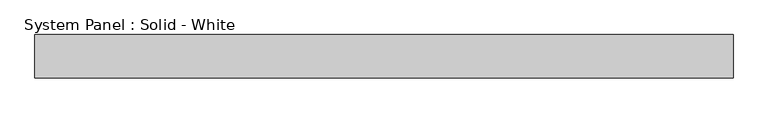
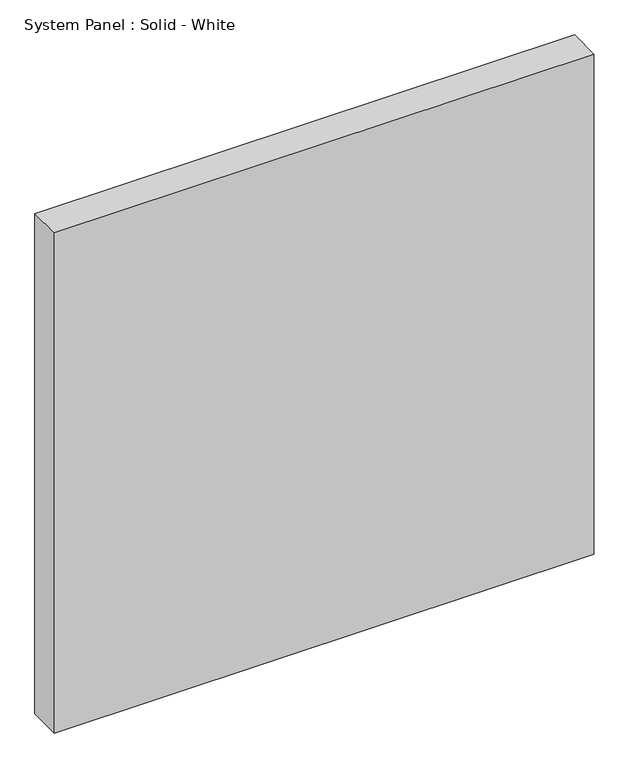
"""IFC4 building model written with IfcOpenShell, lengths in millimetres: plate geometry, System Panel : Solid - White."""

import ifcopenshell
import ifcopenshell.guid

model = None  # the IFC model being written
_history = None  # IfcOwnerHistory: only IFC2X3 demands one
_inside = {}  # id of a spatial element -> (the spatial element, [elements in it])
_under = {}  # id of a project, library or spatial element -> (it, [spatial elements below it])
_declared = {}  # id of a project -> (the project, [libraries it declares])
_typed = {}  # id of a type object -> (the type object, [elements of that type])
_made_of = {}  # id of a material, layer set ... -> (it, [elements and type objects made of it])


def new_model(schema):
    """Start an empty IFC model of exactly this schema.

    Asked for "IFC4X3", IfcOpenShell would pick the latest addendum, in which some entities
    have other attributes; the version numbers below select the first issue.
    IFC2X3 requires an IfcOwnerHistory on every rooted entity: one is made here for all.
    """
    global model, _history
    if schema == "IFC4X3":
        model = ifcopenshell.file(schema_version=(4, 3, 0, 0))
    else:
        model = ifcopenshell.file(schema=schema)
    _inside.clear()
    _under.clear()
    _declared.clear()
    _typed.clear()
    _made_of.clear()
    _history = None
    if model.schema == "IFC2X3":
        org = make("IfcOrganization", Name="unknown")
        user = make(
            "IfcPersonAndOrganization",
            ThePerson=make("IfcPerson", FamilyName="unknown"),
            TheOrganization=org,
        )
        app = make(
            "IfcApplication",
            ApplicationDeveloper=org,
            Version="unknown",
            ApplicationFullName="unknown",
            ApplicationIdentifier="unknown",
        )
        _history = make(
            "IfcOwnerHistory",
            OwningUser=user,
            OwningApplication=app,
            ChangeAction="ADDED",
            CreationDate=0,
        )
    return model


def make(cls, **values):
    """One entity of the class cls with the attributes given. An attribute that is None is left unset."""
    return model.create_entity(
        cls, **{name: value for name, value in values.items() if value is not None}
    )


def rooted(cls, **values):
    """An entity with a GlobalId (a new one), such as an element, a storey or a relation."""
    return make(cls, GlobalId=ifcopenshell.guid.new(), OwnerHistory=_history, **values)


def si_unit(unit_type, name, prefix=None):
    """IfcSIUnit, for example si_unit("LENGTHUNIT", "METRE", prefix="MILLI")."""
    return make("IfcSIUnit", UnitType=unit_type, Prefix=prefix, Name=name)


def assignment(units):
    """IfcUnitAssignment: the units of a project."""
    return None if units is None else make("IfcUnitAssignment", Units=units)


def point(xyz):
    """IfcCartesianPoint."""
    return None if xyz is None else make("IfcCartesianPoint", Coordinates=xyz)


def direction(xyz):
    """IfcDirection."""
    return None if xyz is None else make("IfcDirection", DirectionRatios=xyz)


def frame(location, z_axis=None, x_axis=None):
    """IfcAxis2Placement3D, a coordinate frame: its origin and axes. An axis left out is left unset."""
    return make(
        "IfcAxis2Placement3D",
        Location=point(location),
        Axis=direction(z_axis),
        RefDirection=direction(x_axis),
    )


def origin():
    """The frame at (0, 0, 0) with its axes left unset."""
    return frame((0.0, 0.0, 0.0))


def origin_with_axes():
    """The frame at (0, 0, 0) with the z axis (0, 0, 1) and the x axis (1, 0, 0) written out."""
    return frame((0.0, 0.0, 0.0), z_axis=(0.0, 0.0, 1.0), x_axis=(1.0, 0.0, 0.0))


def place(relative_to, where):
    """IfcLocalPlacement: puts the frame where relative to a parent placement (None: the world)."""
    return make(
        "IfcLocalPlacement", PlacementRelTo=relative_to, RelativePlacement=where
    )


def context(
    kind, dimensions, precision=None, world=None, true_north=None, identifier=None
):
    """IfcGeometricRepresentationContext, for example the 3D "Model" context."""
    return make(
        "IfcGeometricRepresentationContext",
        ContextIdentifier=identifier,
        ContextType=kind,
        CoordinateSpaceDimension=dimensions,
        Precision=precision,
        WorldCoordinateSystem=world,
        TrueNorth=true_north,
    )


def project(units=None, contexts=None):
    """IfcProject with its units and contexts."""
    return rooted(
        "IfcProject",
        Name="project",
        RepresentationContexts=contexts,
        UnitsInContext=assignment(units),
    )


def spatial(cls, under=None, at=None, **own):
    """A site, building, storey or space (cls), placed at a placement, below another one or the project."""
    s = rooted(cls, ObjectPlacement=at, **own)
    if under is not None:
        _under.setdefault(under.id(), (under, []))[1].append(s)
    return s


def polyline(points):
    """IfcPolyline through the points."""
    return make("IfcPolyline", Points=[point(p) for p in points])


def outline(outer, holes=None, kind="AREA"):
    """IfcArbitraryClosedProfileDef: a profile drawn as a closed curve; with holes, ...WithVoids."""
    if holes is None:
        return make("IfcArbitraryClosedProfileDef", ProfileType=kind, OuterCurve=outer)
    return make(
        "IfcArbitraryProfileDefWithVoids",
        ProfileType=kind,
        OuterCurve=outer,
        InnerCurves=holes,
    )


def extrude(swept, where, along, depth):
    """IfcExtrudedAreaSolid: the profile swept, set in the frame where, extruded along a direction by depth."""
    return make(
        "IfcExtrudedAreaSolid",
        SweptArea=swept,
        Position=where,
        ExtrudedDirection=direction(along),
        Depth=depth,
    )


def shape(context_of_items, identifier, shape_type, items):
    """IfcShapeRepresentation: the items that make up one representation, for example the "Body"."""
    return make(
        "IfcShapeRepresentation",
        ContextOfItems=context_of_items,
        RepresentationIdentifier=identifier,
        RepresentationType=shape_type,
        Items=items,
    )


def source(mapping_origin, context_of_items, identifier, shape_type, items):
    """IfcRepresentationMap: a shape defined once, which mapped items show again and again."""
    return make(
        "IfcRepresentationMap",
        MappingOrigin=mapping_origin,
        MappedRepresentation=shape(context_of_items, identifier, shape_type, items),
    )


def transform(
    local_origin,
    x_axis=None,
    y_axis=None,
    z_axis=None,
    scale=None,
    scale2=None,
    scale3=None,
    uniform=True,
):
    """IfcCartesianTransformationOperator3D, or its non-uniform kind. x_axis, y_axis, z_axis: its Axis1, 2, 3."""
    if uniform:
        return make(
            "IfcCartesianTransformationOperator3D",
            Axis1=direction(x_axis),
            Axis2=direction(y_axis),
            LocalOrigin=point(local_origin),
            Scale=scale,
            Axis3=direction(z_axis),
        )
    return make(
        "IfcCartesianTransformationOperator3DnonUniform",
        Axis1=direction(x_axis),
        Axis2=direction(y_axis),
        LocalOrigin=point(local_origin),
        Scale=scale,
        Axis3=direction(z_axis),
        Scale2=scale2,
        Scale3=scale3,
    )


def mapped(mapping_source, mapping_target):
    """IfcMappedItem: shows the shape of a source again, moved by a transform."""
    return make(
        "IfcMappedItem", MappingSource=mapping_source, MappingTarget=mapping_target
    )


def made_of(thing, what):
    """Note that an element or type object is made of a material, layer set ...; save() writes the relation."""
    if what is not None:
        _made_of.setdefault(what.id(), (what, []))[1].append(thing)
    return thing


def element(
    cls,
    number,
    at=None,
    inside=None,
    cuts=None,
    type_object=None,
    material=None,
    context=None,
    identifier="Body",
    shape_type=None,
    held_by="IfcProductDefinitionShape",
    body=None,
    shapes=None,
    **own,
):
    """One element of the class cls, such as IfcWall. Its Tag is "e" and its number.

    at: its placement. inside: the storey or other place that contains it. cuts: it is an
    opening in that element (IfcRelVoidsElement). A single representation is given by context,
    identifier, shape_type and body (its items); several are given by shapes. held_by: the class
    of the entity that holds the representations. save() writes the other relations.
    """
    e = rooted(cls, Tag="e%d" % number, ObjectPlacement=at, **own)
    if body is not None:
        shapes = [shape(context, identifier, shape_type, body)]
    if shapes is not None:
        e.Representation = make(held_by, Representations=shapes)
    if inside is not None:
        _inside.setdefault(inside.id(), (inside, []))[1].append(e)
    if cuts is not None:
        rooted(
            "IfcRelVoidsElement", RelatingBuildingElement=cuts, RelatedOpeningElement=e
        )
    if type_object is not None:
        _typed.setdefault(type_object.id(), (type_object, []))[1].append(e)
    return made_of(e, material)


def aggregate(whole, parts):
    """IfcRelAggregates: a whole, such as a stair, and the parts it consists of."""
    return rooted("IfcRelAggregates", RelatingObject=whole, RelatedObjects=parts)


def save(model, path):
    """Write the relations noted so far, then the file.

    IfcRelAggregates (storeys below a building ...), IfcRelContainedInSpatialStructure (elements
    in a storey), IfcRelDefinesByType, IfcRelAssociatesMaterial and IfcRelDeclares: one each for
    every whole, place, type object, material and project.
    """
    for whole, parts in _under.values():
        aggregate(whole, parts)
    for where, things in _inside.values():
        rooted(
            "IfcRelContainedInSpatialStructure",
            RelatedElements=things,
            RelatingStructure=where,
        )
    for kind, things in _typed.values():
        rooted("IfcRelDefinesByType", RelatedObjects=things, RelatingType=kind)
    for what, things in _made_of.values():
        rooted("IfcRelAssociatesMaterial", RelatedObjects=things, RelatingMaterial=what)
    for by, libraries in _declared.values():
        rooted("IfcRelDeclares", RelatingContext=by, RelatedDefinitions=libraries)
    model.write(path)


def system_panel_solid_white_162dd118(model_context):
    return source(origin(), model_context, "Body", "SweptSolid", [
        extrude(outline(polyline([(513.5427261, -19.05), (-513.5427261, -19.05), (-513.5427261, 44.45), (513.5427261, 44.45), (513.5427261, -19.05)])), origin_with_axes(), (0.0, 0.0, 1.0), 1006.5080051),
    ])


if __name__ == "__main__":
    model = new_model("IFC4")
    model_context = context("Model", 3, world=origin())
    ifc_project = project(units=[si_unit("LENGTHUNIT", "METRE", prefix="MILLI")], contexts=[model_context])
    site = spatial("IfcSite", under=ifc_project)
    building = spatial("IfcBuilding", under=site)
    placement = place(None, origin())
    system_panel_solid_white_shape = system_panel_solid_white_162dd118(model_context)
    element("IfcPlate", 1, ObjectType="System Panel : Solid - White", at=placement, inside=building, context=model_context, shape_type="MappedRepresentation", body=[
        mapped(system_panel_solid_white_shape, transform((0.0, 0.0, 0.0), x_axis=(1.0, 0.0, 0.0), y_axis=(0.0, 1.0, 0.0), z_axis=(0.0, 0.0, 1.0))),
    ])
    save(model, "model.ifc")
